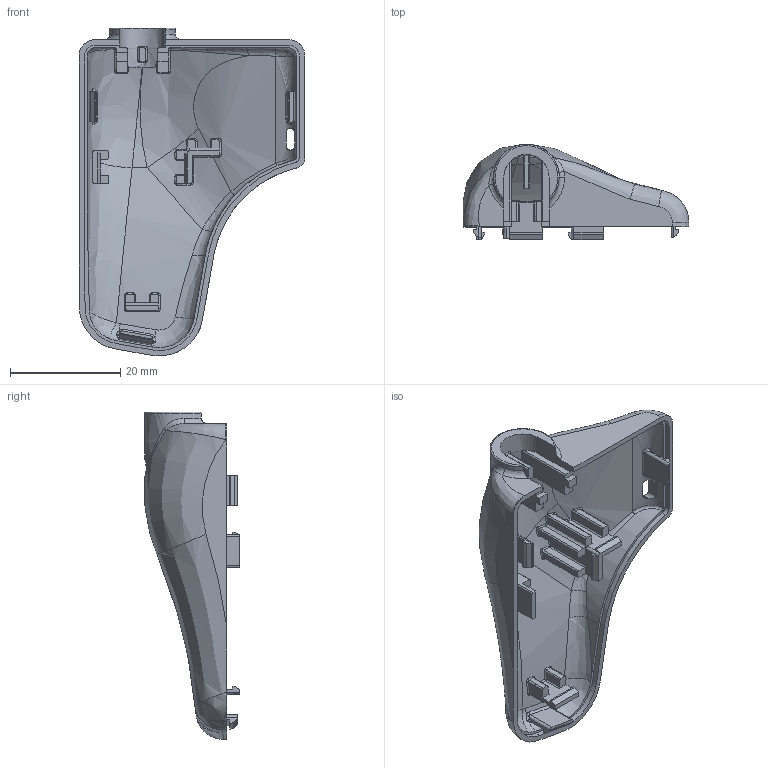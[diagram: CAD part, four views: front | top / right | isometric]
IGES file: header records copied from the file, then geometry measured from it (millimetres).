
Global section: file name: c:\ideas_models\BEUIS_TOP_280726_05.igs; preprocessor: I-DEAS 3D IGES Translator 9; date: 20260731.141202; units: millimetre
Bounding box: 41 x 17.29 x 59.53 mm (x, y, z)
Volume: 4726 mm3; surface area: 7029 mm2
Topology: 1 solids, 1 shells, 361 faces, 934 edges, 572 vertices
Faces by surface type: bspline 361
